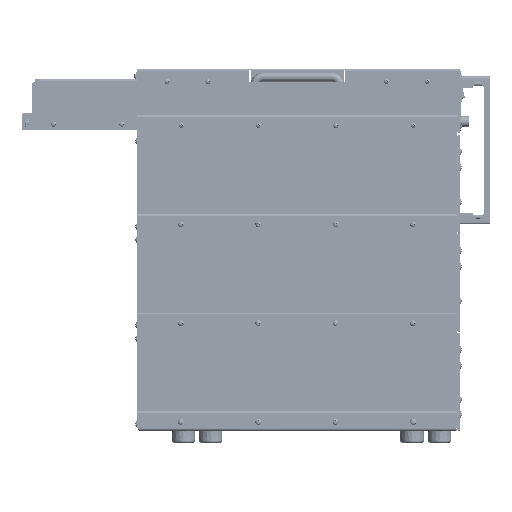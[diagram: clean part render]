
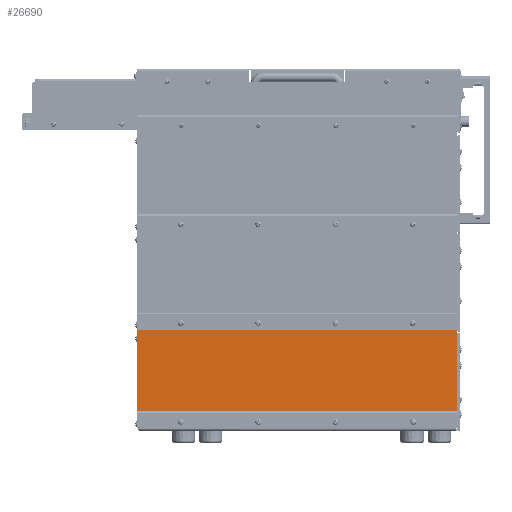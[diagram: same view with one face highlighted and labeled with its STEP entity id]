
A CAD part, left-side view. The second image highlights one B-rep face of the part: STEP entity #26690.
In plain terms, the highlighted planar face has unit normal (-1, 0, 0).
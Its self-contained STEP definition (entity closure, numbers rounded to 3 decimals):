
#26690=ADVANCED_FACE('',(#73401,#73402,#73403,#73404,#73405),#73406,.T.);
#73401=FACE_OUTER_BOUND('',#145227,.T.);
#73402=FACE_BOUND('',#145228,.T.);
#73403=FACE_BOUND('',#145229,.T.);
#73404=FACE_BOUND('',#145230,.T.);
#73405=FACE_BOUND('',#145231,.T.);
#73406=PLANE('',#145232);
#145227=EDGE_LOOP('',(#223301,#223302,#223303,#223304,#223305,#223306,#223307,#223308));
#145228=EDGE_LOOP('',(#223309,#223310));
#145229=EDGE_LOOP('',(#223311,#223312));
#145230=EDGE_LOOP('',(#223313,#223314));
#145231=EDGE_LOOP('',(#223315,#223316));
#145232=AXIS2_PLACEMENT_3D('',#223317,#223318,#223319);
#223301=ORIENTED_EDGE('',*,*,#396644,.F.);
#223302=ORIENTED_EDGE('',*,*,#396652,.T.);
#223303=ORIENTED_EDGE('',*,*,#396663,.F.);
#223304=ORIENTED_EDGE('',*,*,#396639,.F.);
#223305=ORIENTED_EDGE('',*,*,#396687,.T.);
#223306=ORIENTED_EDGE('',*,*,#396705,.F.);
#223307=ORIENTED_EDGE('',*,*,#396706,.F.);
#223308=ORIENTED_EDGE('',*,*,#396646,.F.);
#223309=ORIENTED_EDGE('',*,*,#396622,.T.);
#223310=ORIENTED_EDGE('',*,*,#396689,.T.);
#223311=ORIENTED_EDGE('',*,*,#396617,.T.);
#223312=ORIENTED_EDGE('',*,*,#396691,.T.);
#223313=ORIENTED_EDGE('',*,*,#396612,.T.);
#223314=ORIENTED_EDGE('',*,*,#396693,.T.);
#223315=ORIENTED_EDGE('',*,*,#396607,.T.);
#223316=ORIENTED_EDGE('',*,*,#396695,.T.);
#223317=CARTESIAN_POINT('',(546.234,604.229,-242.652));
#223318=DIRECTION('',(-1.0,0.,0.));
#223319=DIRECTION('',(0.,0.,1.0));
#396607=EDGE_CURVE('',#472737,#472734,#472738,.T.);
#396612=EDGE_CURVE('',#472746,#472743,#472747,.T.);
#396617=EDGE_CURVE('',#472755,#472752,#472756,.T.);
#396622=EDGE_CURVE('',#472764,#472761,#472765,.T.);
#396639=EDGE_CURVE('',#472793,#472789,#472795,.T.);
#396644=EDGE_CURVE('',#472802,#472798,#472804,.T.);
#396646=EDGE_CURVE('',#472798,#472806,#472807,.T.);
#396652=EDGE_CURVE('',#472802,#472814,#472816,.T.);
#396663=EDGE_CURVE('',#472789,#472814,#472829,.T.);
#396687=EDGE_CURVE('',#472793,#472859,#472861,.T.);
#396689=EDGE_CURVE('',#472761,#472764,#472863,.T.);
#396691=EDGE_CURVE('',#472752,#472755,#472865,.T.);
#396693=EDGE_CURVE('',#472743,#472746,#472867,.T.);
#396695=EDGE_CURVE('',#472734,#472737,#472869,.T.);
#396705=EDGE_CURVE('',#472879,#472859,#472880,.T.);
#396706=EDGE_CURVE('',#472806,#472879,#472881,.T.);
#472734=VERTEX_POINT('',#585512);
#472737=VERTEX_POINT('',#585516);
#472738=CIRCLE('',#585517,2.5);
#472743=VERTEX_POINT('',#585523);
#472746=VERTEX_POINT('',#585527);
#472747=CIRCLE('',#585528,2.5);
#472752=VERTEX_POINT('',#585534);
#472755=VERTEX_POINT('',#585538);
#472756=CIRCLE('',#585539,2.5);
#472761=VERTEX_POINT('',#585545);
#472764=VERTEX_POINT('',#585549);
#472765=CIRCLE('',#585550,2.5);
#472789=VERTEX_POINT('',#585579);
#472793=VERTEX_POINT('',#585584);
#472795=CIRCLE('',#585587,1.457);
#472798=VERTEX_POINT('',#585590);
#472802=VERTEX_POINT('',#585595);
#472804=CIRCLE('',#585598,2.538);
#472806=VERTEX_POINT('',#585600);
#472807=CIRCLE('',#585601,2.538);
#472814=VERTEX_POINT('',#585610);
#472816=LINE('',#585613,#585614);
#472829=CIRCLE('',#585630,1.457);
#472859=VERTEX_POINT('',#585669);
#472861=LINE('',#585672,#585673);
#472863=CIRCLE('',#585675,2.5);
#472865=CIRCLE('',#585677,2.5);
#472867=CIRCLE('',#585679,2.5);
#472869=CIRCLE('',#585681,2.5);
#472879=VERTEX_POINT('',#585691);
#472880=LINE('',#585692,#585693);
#472881=LINE('',#585694,#585695);
#585512=CARTESIAN_POINT('',(546.234,974.979,-187.227));
#585516=CARTESIAN_POINT('',(546.234,979.979,-187.227));
#585517=AXIS2_PLACEMENT_3D('',#729985,#729986,#729987);
#585523=CARTESIAN_POINT('',(546.234,870.559,-187.227));
#585527=CARTESIAN_POINT('',(546.234,875.559,-187.227));
#585528=AXIS2_PLACEMENT_3D('',#729993,#729994,#729995);
#585534=CARTESIAN_POINT('',(546.234,766.149,-187.227));
#585538=CARTESIAN_POINT('',(546.234,771.149,-187.227));
#585539=AXIS2_PLACEMENT_3D('',#730001,#730002,#730003);
#585545=CARTESIAN_POINT('',(546.234,661.729,-187.227));
#585549=CARTESIAN_POINT('',(546.234,666.729,-187.227));
#585550=AXIS2_PLACEMENT_3D('',#730009,#730010,#730011);
#585579=CARTESIAN_POINT('',(546.234,1037.053,-179.404));
#585584=CARTESIAN_POINT('',(546.234,1037.479,-180.434));
#585587=AXIS2_PLACEMENT_3D('',#730037,#730038,#730039);
#585590=CARTESIAN_POINT('',(546.234,604.973,-179.721));
#585595=CARTESIAN_POINT('',(546.234,606.767,-178.977));
#585598=AXIS2_PLACEMENT_3D('',#730045,#730046,#730047);
#585600=CARTESIAN_POINT('',(546.234,604.229,-181.515));
#585601=AXIS2_PLACEMENT_3D('',#730048,#730049,#730050);
#585610=CARTESIAN_POINT('',(546.234,1036.023,-178.977));
#585613=CARTESIAN_POINT('',(546.234,604.229,-178.977));
#585614=VECTOR('',#730057,1.0);
#585630=AXIS2_PLACEMENT_3D('',#730076,#730077,#730078);
#585669=CARTESIAN_POINT('',(546.234,1037.479,-306.327));
#585672=CARTESIAN_POINT('',(546.234,1037.479,-178.977));
#585673=VECTOR('',#730113,1.0);
#585675=AXIS2_PLACEMENT_3D('',#730114,#730115,#730116);
#585677=AXIS2_PLACEMENT_3D('',#730117,#730118,#730119);
#585679=AXIS2_PLACEMENT_3D('',#730120,#730121,#730122);
#585681=AXIS2_PLACEMENT_3D('',#730123,#730124,#730125);
#585691=CARTESIAN_POINT('',(546.234,604.229,-306.327));
#585692=CARTESIAN_POINT('',(546.234,604.229,-306.327));
#585693=VECTOR('',#730138,1.0);
#585694=CARTESIAN_POINT('',(546.234,604.229,-178.977));
#585695=VECTOR('',#730139,1.0);
#729985=CARTESIAN_POINT('',(546.234,977.479,-187.227));
#729986=DIRECTION('',(1.0,0.,0.));
#729987=DIRECTION('',(0.,-1.0,0.));
#729993=CARTESIAN_POINT('',(546.234,873.059,-187.227));
#729994=DIRECTION('',(1.0,0.,0.));
#729995=DIRECTION('',(0.,-1.0,0.));
#730001=CARTESIAN_POINT('',(546.234,768.649,-187.227));
#730002=DIRECTION('',(1.0,0.,0.));
#730003=DIRECTION('',(0.,-1.0,0.));
#730009=CARTESIAN_POINT('',(546.234,664.229,-187.227));
#730010=DIRECTION('',(1.0,0.,0.));
#730011=DIRECTION('',(0.,-1.0,0.));
#730037=CARTESIAN_POINT('',(546.234,1036.023,-180.434));
#730038=DIRECTION('',(1.0,0.,0.));
#730039=DIRECTION('',(0.,0.707,0.707));
#730045=CARTESIAN_POINT('',(546.234,606.767,-181.515));
#730046=DIRECTION('',(1.0,0.,0.));
#730047=DIRECTION('',(0.,-0.707,0.707));
#730048=CARTESIAN_POINT('',(546.234,606.767,-181.515));
#730049=DIRECTION('',(1.0,0.,0.));
#730050=DIRECTION('',(0.,-0.707,0.707));
#730057=DIRECTION('',(0.0,1.0,0.0));
#730076=CARTESIAN_POINT('',(546.234,1036.023,-180.434));
#730077=DIRECTION('',(1.0,0.,0.));
#730078=DIRECTION('',(0.,0.707,0.707));
#730113=DIRECTION('',(0.0,0.0,-1.0));
#730114=CARTESIAN_POINT('',(546.234,664.229,-187.227));
#730115=DIRECTION('',(1.0,0.,0.));
#730116=DIRECTION('',(0.,-1.0,0.));
#730117=CARTESIAN_POINT('',(546.234,768.649,-187.227));
#730118=DIRECTION('',(1.0,0.,0.));
#730119=DIRECTION('',(0.,-1.0,0.));
#730120=CARTESIAN_POINT('',(546.234,873.059,-187.227));
#730121=DIRECTION('',(1.0,0.,0.));
#730122=DIRECTION('',(0.,-1.0,0.));
#730123=CARTESIAN_POINT('',(546.234,977.479,-187.227));
#730124=DIRECTION('',(1.0,0.,0.));
#730125=DIRECTION('',(0.,-1.0,0.));
#730138=DIRECTION('',(0.0,1.0,0.0));
#730139=DIRECTION('',(0.0,0.0,-1.0));
